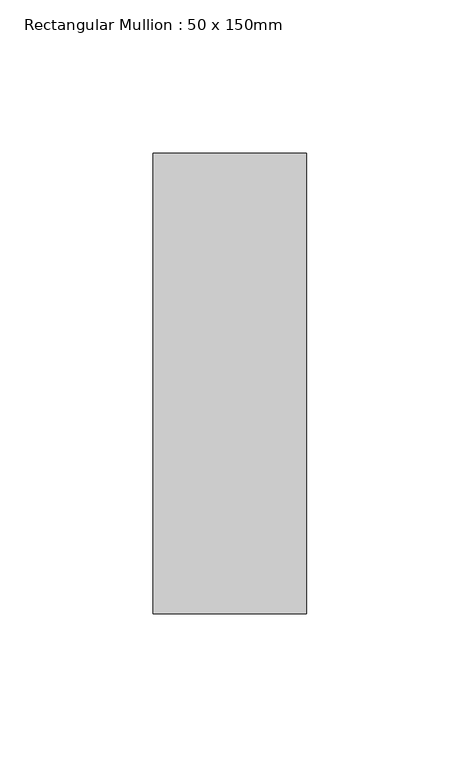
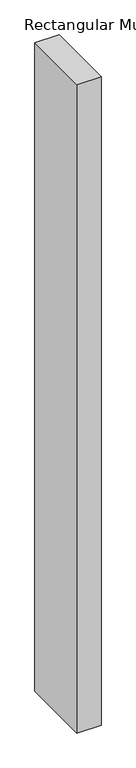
"""IFC4 building model written with IfcOpenShell, lengths in millimetres: member geometry, Rectangular Mullion : 50 x 150mm."""

from ifc_helpers import new_model, si_unit, frame, origin, place, context, project, spatial, polyline, outline, extrude, source, transform, mapped, element, save


def rectangular_mullion_50_x_150mm_61f7243f(model_context):
    return source(origin(), model_context, "Body", "SweptSolid", [
        extrude(outline(polyline([(25.0, 75.0), (25.0, -75.0), (-25.0, -75.0), (-25.0, 75.0), (25.0, 75.0)])), frame((0.0, 0.0, -1417.1188549), z_axis=(0.0, 0.0, 1.0), x_axis=(1.0, 0.0, 0.0)), (0.0, 0.0, 1.0), 1417.1188549),
    ])


if __name__ == "__main__":
    model = new_model("IFC4")
    model_context = context("Model", 3, world=origin())
    ifc_project = project(units=[si_unit("LENGTHUNIT", "METRE", prefix="MILLI")], contexts=[model_context])
    site = spatial("IfcSite", under=ifc_project)
    building = spatial("IfcBuilding", under=site)
    placement = place(None, origin())
    rectangular_mullion_50_x_150mm_shape = rectangular_mullion_50_x_150mm_61f7243f(model_context)
    element("IfcMember", 1, ObjectType="Rectangular Mullion : 50 x 150mm", at=placement, inside=building, context=model_context, shape_type="MappedRepresentation", body=[
        mapped(rectangular_mullion_50_x_150mm_shape, transform((0.0, 0.0, 0.0), x_axis=(1.0, 0.0, 0.0), y_axis=(0.0, 1.0, 0.0), z_axis=(0.0, 0.0, 1.0))),
    ])
    save(model, "model.ifc")
